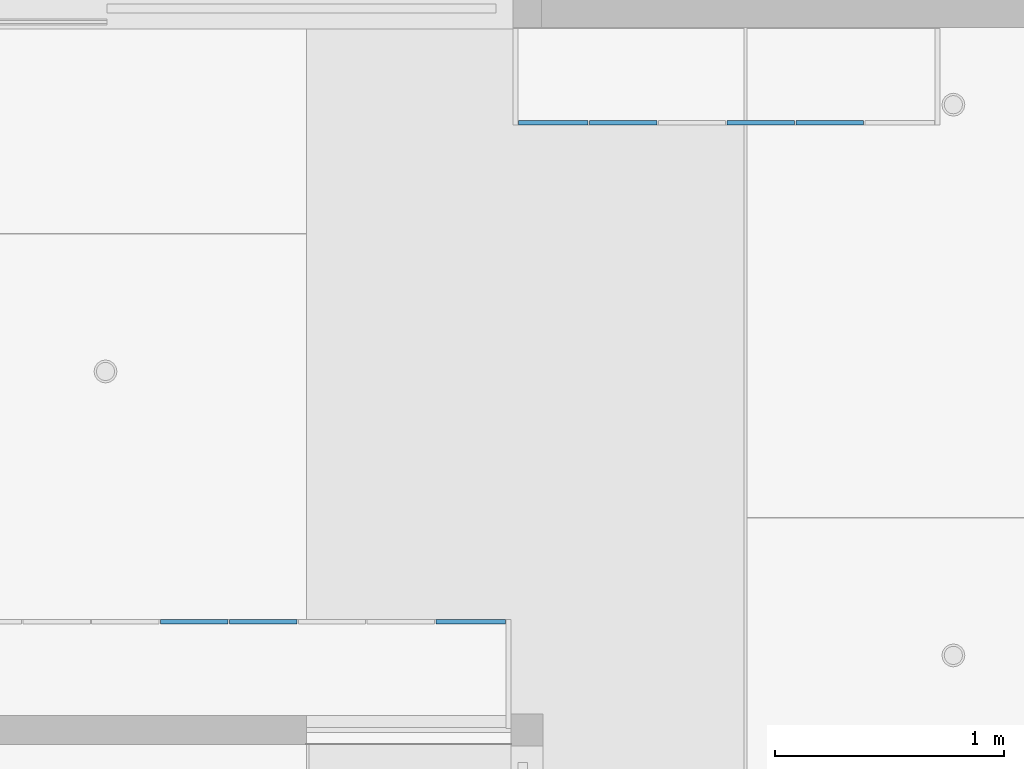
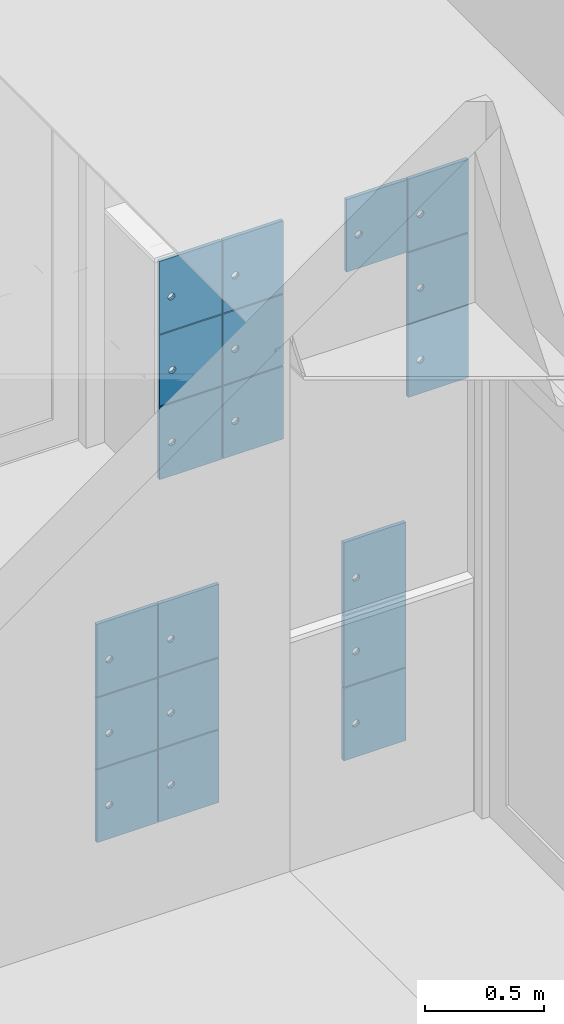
# One storey, part 144 of 347: 19 building element parts, 2 elements without a shape of their own.
"""IFC2X3 building model written with IfcOpenShell, lengths in millimetres."""

from ifc_helpers import new_model, entity, si_unit, converted_unit, derived_unit, money_unit, direction, frame, origin_with_axes, place, context, subcontext, project, spatial, faceted_brep, material, type_object, element, aggregate, save


model = new_model("IFC2X3")

# Units and contexts
model_context = context("Model", 3, precision=0.01, world=origin_with_axes(), true_north=direction((0.0, 1.0)))
plan_context = context("Plan", 3, precision=0.01, world=origin_with_axes(), true_north=direction((0.0, 1.0)))
body_context = subcontext(model_context, "Body", "Model", "MODEL_VIEW")
ifc_project = project(units=[si_unit("LENGTHUNIT", "METRE", prefix="MILLI"), si_unit("AREAUNIT", "SQUARE_METRE"), si_unit("VOLUMEUNIT", "CUBIC_METRE"), converted_unit("PLANEANGLEUNIT", "DEGREE", entity("IfcPlaneAngleMeasure", 0.0174532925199), si_unit("PLANEANGLEUNIT", "RADIAN"), dimensions=[0, 0, 0, 0, 0, 0, 0]), money_unit("EUR"), converted_unit("TIMEUNIT", "Year", entity("IfcTimeMeasure", 31556926.0), si_unit("TIMEUNIT", "SECOND"), dimensions=[0, 0, 1, 0, 0, 0, 0]), si_unit("MASSUNIT", "GRAM", prefix="KILO"), si_unit("THERMODYNAMICTEMPERATUREUNIT", "DEGREE_CELSIUS"), si_unit("LUMINOUSINTENSITYUNIT", "LUMEN"), si_unit("ENERGYUNIT", "JOULE", prefix="MEGA"), derived_unit("THERMALCONDUCTANCEUNIT", [(si_unit("POWERUNIT", "WATT"), 1), (si_unit("LENGTHUNIT", "METRE"), -1), (si_unit("THERMODYNAMICTEMPERATUREUNIT", "KELVIN"), -1)]), derived_unit("SPECIFICHEATCAPACITYUNIT", [(si_unit("ENERGYUNIT", "JOULE"), 1), (si_unit("MASSUNIT", "GRAM", prefix="KILO"), -1), (si_unit("THERMODYNAMICTEMPERATUREUNIT", "KELVIN"), -1)]), derived_unit("MASSDENSITYUNIT", [(si_unit("MASSUNIT", "GRAM", prefix="KILO"), 1), (si_unit("VOLUMEUNIT", "CUBIC_METRE"), -1)])], contexts=[model_context, plan_context])

# Site, building, storey
site_placement = place(None, origin_with_axes())
site = spatial("IfcSite", under=ifc_project, at=site_placement, Name="Site", CompositionType="ELEMENT")
building_placement = place(site_placement, origin_with_axes())
building = spatial("IfcBuilding", under=site, at=building_placement, Name="Naam gebouw", CompositionType="ELEMENT")
storey_placement = place(building_placement, origin_with_axes())
storey = spatial("IfcBuildingStorey", under=building, at=storey_placement, Name="begane grond", CompositionType="ELEMENT", Elevation=0.0)

# Beam, building element parts
beam_type_1 = type_object("IfcBeamType", Name="VI Garderobe 05 2412 x 1122", PredefinedType="BEAM")
beam_1_placement = place(storey_placement, frame((29630.9999977, 36380.5000293, 0.0), z_axis=(0.0, 0.0, 1.0), x_axis=(-1.0, 0.0, 0.0)))
beam_1 = element("IfcBeam", 1, at=beam_1_placement, inside=storey, type_object=beam_type_1, Name="28_Balk-x", ObjectType="BEAM")
ifc_material = material(Name="Hout - Lockers")
building_element_part_1_placement = place(beam_1_placement, origin_with_axes())
building_element_part_1 = element("IfcBuildingElementPart", 2, at=building_element_part_1_placement, material=ifc_material, Name="Hout - Lockers", context=body_context, shape_type="Brep", body=[
    faceted_brep([(-2412.0, 18.0, 1175.0), (-2412.0, 18.0, 802.0), (-2412.0, 0.0, 802.0), (-2412.0, 0.0, 1175.0), (-2109.0, 18.0, 1175.0), (-2109.0, 18.0, 802.0), (-2183.5623059, 18.0, 985.580134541), (-2187.0, 18.0, 975.0), (-2183.5623059, 18.0, 964.419865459), (-2174.5623059, 18.0, 957.880982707), (-2163.4376941, 18.0, 957.880982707), (-2154.4376941, 18.0, 964.419865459), (-2151.0, 18.0, 975.0), (-2154.4376941, 18.0, 985.580134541), (-2163.4376941, 18.0, 992.119017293), (-2174.5623059, 18.0, 992.119017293), (-2109.0, 0.0, 802.0), (-2109.0, 0.0, 1175.0), (-2183.5623059, 0.0, 985.580134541), (-2174.5623059, 0.0, 992.119017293), (-2163.4376941, 0.0, 992.119017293), (-2154.4376941, 0.0, 985.580134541), (-2151.0, 0.0, 975.0), (-2154.4376941, 0.0, 964.419865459), (-2163.4376941, 0.0, 957.880982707), (-2174.5623059, 0.0, 957.880982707), (-2183.5623059, 0.0, 964.419865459), (-2187.0, 0.0, 975.0)], [[[0, 1, 2, 3]], [[0, 4, 5, 1], [6, 7, 8, 9, 10, 11, 12, 13, 14, 15]], [[1, 5, 16, 2]], [[3, 2, 16, 17], [18, 19, 20, 21, 22, 23, 24, 25, 26, 27]], [[4, 0, 3, 17]], [[5, 4, 17, 16]], [[7, 6, 18, 27]], [[8, 7, 27, 26]], [[9, 8, 26, 25]], [[10, 9, 25, 24]], [[11, 10, 24, 23]], [[12, 11, 23, 22]], [[13, 12, 22, 21]], [[14, 13, 21, 20]], [[15, 14, 20, 19]], [[6, 15, 19, 18]]]),
])
building_element_part_2_placement = place(beam_1_placement, origin_with_axes())
building_element_part_2 = element("IfcBuildingElementPart", 3, at=building_element_part_2_placement, material=ifc_material, Name="Hout - Lockers", context=body_context, shape_type="Brep", body=[
    faceted_brep([(-2412.0, 18.0, 796.0), (-2412.0, 18.0, 432.0), (-2412.0, 0.0, 432.0), (-2412.0, 0.0, 796.0), (-2109.0, 18.0, 796.0), (-2109.0, 18.0, 432.0), (-2183.5623059, 18.0, 606.580134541), (-2187.0, 18.0, 596.0), (-2183.5623059, 18.0, 585.419865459), (-2174.5623059, 18.0, 578.880982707), (-2163.4376941, 18.0, 578.880982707), (-2154.4376941, 18.0, 585.419865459), (-2151.0, 18.0, 596.0), (-2154.4376941, 18.0, 606.580134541), (-2163.4376941, 18.0, 613.119017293), (-2174.5623059, 18.0, 613.119017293), (-2109.0, 0.0, 432.0), (-2109.0, 0.0, 796.0), (-2183.5623059, 0.0, 606.580134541), (-2174.5623059, 0.0, 613.119017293), (-2163.4376941, 0.0, 613.119017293), (-2154.4376941, 0.0, 606.580134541), (-2151.0, 0.0, 596.0), (-2154.4376941, 0.0, 585.419865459), (-2163.4376941, 0.0, 578.880982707), (-2174.5623059, 0.0, 578.880982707), (-2183.5623059, 0.0, 585.419865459), (-2187.0, 0.0, 596.0)], [[[0, 1, 2, 3]], [[0, 4, 5, 1], [6, 7, 8, 9, 10, 11, 12, 13, 14, 15]], [[1, 5, 16, 2]], [[3, 2, 16, 17], [18, 19, 20, 21, 22, 23, 24, 25, 26, 27]], [[4, 0, 3, 17]], [[5, 4, 17, 16]], [[7, 6, 18, 27]], [[8, 7, 27, 26]], [[9, 8, 26, 25]], [[10, 9, 25, 24]], [[11, 10, 24, 23]], [[12, 11, 23, 22]], [[13, 12, 22, 21]], [[14, 13, 21, 20]], [[15, 14, 20, 19]], [[6, 15, 19, 18]]]),
])
building_element_part_3_placement = place(beam_1_placement, origin_with_axes())
building_element_part_3 = element("IfcBuildingElementPart", 4, at=building_element_part_3_placement, material=ifc_material, Name="Hout - Lockers", context=body_context, shape_type="Brep", body=[
    faceted_brep([(-2412.0, 18.0, 426.0), (-2412.0, 18.0, 53.0), (-2412.0, 0.0, 53.0), (-2412.0, 0.0, 426.0), (-2109.0, 18.0, 426.0), (-2109.0, 18.0, 53.0), (-2182.1615884, 18.0, 236.58994507), (-2185.5992825, 18.0, 226.009810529), (-2182.1615884, 18.0, 215.429675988), (-2173.1615884, 18.0, 208.890793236), (-2162.0369766, 18.0, 208.890793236), (-2153.0369766, 18.0, 215.429675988), (-2149.5992825, 18.0, 226.009810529), (-2153.0369766, 18.0, 236.58994507), (-2162.0369766, 18.0, 243.128827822), (-2173.1615884, 18.0, 243.128827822), (-2109.0, 0.0, 53.0), (-2109.0, 0.0, 426.0), (-2182.1615884, 0.0, 236.58994507), (-2173.1615884, 0.0, 243.128827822), (-2162.0369766, 0.0, 243.128827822), (-2153.0369766, 0.0, 236.58994507), (-2149.5992825, 0.0, 226.009810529), (-2153.0369766, 0.0, 215.429675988), (-2162.0369766, 0.0, 208.890793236), (-2173.1615884, 0.0, 208.890793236), (-2182.1615884, 0.0, 215.429675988), (-2185.5992825, 0.0, 226.009810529)], [[[0, 1, 2, 3]], [[0, 4, 5, 1], [6, 7, 8, 9, 10, 11, 12, 13, 14, 15]], [[1, 5, 16, 2]], [[3, 2, 16, 17], [18, 19, 20, 21, 22, 23, 24, 25, 26, 27]], [[4, 0, 3, 17]], [[5, 4, 17, 16]], [[7, 6, 18, 27]], [[8, 7, 27, 26]], [[9, 8, 26, 25]], [[10, 9, 25, 24]], [[11, 10, 24, 23]], [[12, 11, 23, 22]], [[13, 12, 22, 21]], [[14, 13, 21, 20]], [[15, 14, 20, 19]], [[6, 15, 19, 18]]]),
])
building_element_part_4_placement = place(beam_1_placement, origin_with_axes())
building_element_part_4 = element("IfcBuildingElementPart", 5, at=building_element_part_4_placement, material=ifc_material, Name="Hout - Lockers", context=body_context, shape_type="Brep", body=[
    faceted_brep([(-1503.0, 18.0, 1175.0), (-1503.0, 18.0, 802.0), (-1503.0, 0.0, 802.0), (-1503.0, 0.0, 1175.0), (-1209.0, 18.0, 1175.0), (-1209.0, 18.0, 802.0), (-1283.5623059, 18.0, 985.580134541), (-1287.0, 18.0, 975.0), (-1283.5623059, 18.0, 964.419865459), (-1274.5623059, 18.0, 957.880982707), (-1263.4376941, 18.0, 957.880982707), (-1254.4376941, 18.0, 964.419865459), (-1251.0, 18.0, 975.0), (-1254.4376941, 18.0, 985.580134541), (-1263.4376941, 18.0, 992.119017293), (-1274.5623059, 18.0, 992.119017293), (-1209.0, 0.0, 802.0), (-1209.0, 0.0, 1175.0), (-1283.5623059, 0.0, 985.580134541), (-1274.5623059, 0.0, 992.119017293), (-1263.4376941, 0.0, 992.119017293), (-1254.4376941, 0.0, 985.580134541), (-1251.0, 0.0, 975.0), (-1254.4376941, 0.0, 964.419865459), (-1263.4376941, 0.0, 957.880982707), (-1274.5623059, 0.0, 957.880982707), (-1283.5623059, 0.0, 964.419865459), (-1287.0, 0.0, 975.0)], [[[0, 1, 2, 3]], [[0, 4, 5, 1], [6, 7, 8, 9, 10, 11, 12, 13, 14, 15]], [[1, 5, 16, 2]], [[3, 2, 16, 17], [18, 19, 20, 21, 22, 23, 24, 25, 26, 27]], [[4, 0, 3, 17]], [[5, 4, 17, 16]], [[7, 6, 18, 27]], [[8, 7, 27, 26]], [[9, 8, 26, 25]], [[10, 9, 25, 24]], [[11, 10, 24, 23]], [[12, 11, 23, 22]], [[13, 12, 22, 21]], [[14, 13, 21, 20]], [[15, 14, 20, 19]], [[6, 15, 19, 18]]]),
])
building_element_part_5_placement = place(beam_1_placement, origin_with_axes())
building_element_part_5 = element("IfcBuildingElementPart", 6, at=building_element_part_5_placement, material=ifc_material, Name="Hout - Lockers", context=body_context, shape_type="Brep", body=[
    faceted_brep([(-1503.0, 18.0, 796.0), (-1503.0, 18.0, 432.0), (-1503.0, 0.0, 432.0), (-1503.0, 0.0, 796.0), (-1209.0, 18.0, 796.0), (-1209.0, 18.0, 432.0), (-1283.5623059, 18.0, 606.580134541), (-1287.0, 18.0, 596.0), (-1283.5623059, 18.0, 585.419865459), (-1274.5623059, 18.0, 578.880982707), (-1263.4376941, 18.0, 578.880982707), (-1254.4376941, 18.0, 585.419865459), (-1251.0, 18.0, 596.0), (-1254.4376941, 18.0, 606.580134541), (-1263.4376941, 18.0, 613.119017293), (-1274.5623059, 18.0, 613.119017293), (-1209.0, 0.0, 432.0), (-1209.0, 0.0, 796.0), (-1283.5623059, 0.0, 606.580134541), (-1274.5623059, 0.0, 613.119017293), (-1263.4376941, 0.0, 613.119017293), (-1254.4376941, 0.0, 606.580134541), (-1251.0, 0.0, 596.0), (-1254.4376941, 0.0, 585.419865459), (-1263.4376941, 0.0, 578.880982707), (-1274.5623059, 0.0, 578.880982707), (-1283.5623059, 0.0, 585.419865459), (-1287.0, 0.0, 596.0)], [[[0, 1, 2, 3]], [[0, 4, 5, 1], [6, 7, 8, 9, 10, 11, 12, 13, 14, 15]], [[1, 5, 16, 2]], [[3, 2, 16, 17], [18, 19, 20, 21, 22, 23, 24, 25, 26, 27]], [[4, 0, 3, 17]], [[5, 4, 17, 16]], [[7, 6, 18, 27]], [[8, 7, 27, 26]], [[9, 8, 26, 25]], [[10, 9, 25, 24]], [[11, 10, 24, 23]], [[12, 11, 23, 22]], [[13, 12, 22, 21]], [[14, 13, 21, 20]], [[15, 14, 20, 19]], [[6, 15, 19, 18]]]),
])
building_element_part_6_placement = place(beam_1_placement, origin_with_axes())
building_element_part_6 = element("IfcBuildingElementPart", 7, at=building_element_part_6_placement, material=ifc_material, Name="Hout - Lockers", context=body_context, shape_type="Brep", body=[
    faceted_brep([(-1503.0, 18.0, 426.0), (-1503.0, 18.0, 53.0), (-1503.0, 0.0, 53.0), (-1503.0, 0.0, 426.0), (-1209.0, 18.0, 426.0), (-1209.0, 18.0, 53.0), (-1283.5623059, 18.0, 236.580134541), (-1287.0, 18.0, 226.0), (-1283.5623059, 18.0, 215.419865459), (-1274.5623059, 18.0, 208.880982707), (-1263.4376941, 18.0, 208.880982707), (-1254.4376941, 18.0, 215.419865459), (-1251.0, 18.0, 226.0), (-1254.4376941, 18.0, 236.580134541), (-1263.4376941, 18.0, 243.119017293), (-1274.5623059, 18.0, 243.119017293), (-1209.0, 0.0, 53.0), (-1209.0, 0.0, 426.0), (-1283.5623059, 0.0, 236.580134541), (-1274.5623059, 0.0, 243.119017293), (-1263.4376941, 0.0, 243.119017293), (-1254.4376941, 0.0, 236.580134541), (-1251.0, 0.0, 226.0), (-1254.4376941, 0.0, 215.419865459), (-1263.4376941, 0.0, 208.880982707), (-1274.5623059, 0.0, 208.880982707), (-1283.5623059, 0.0, 215.419865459), (-1287.0, 0.0, 226.0)], [[[0, 1, 2, 3]], [[0, 4, 5, 1], [6, 7, 8, 9, 10, 11, 12, 13, 14, 15]], [[1, 5, 16, 2]], [[3, 2, 16, 17], [18, 19, 20, 21, 22, 23, 24, 25, 26, 27]], [[4, 0, 3, 17]], [[5, 4, 17, 16]], [[7, 6, 18, 27]], [[8, 7, 27, 26]], [[9, 8, 26, 25]], [[10, 9, 25, 24]], [[11, 10, 24, 23]], [[12, 11, 23, 22]], [[13, 12, 22, 21]], [[14, 13, 21, 20]], [[15, 14, 20, 19]], [[6, 15, 19, 18]]]),
])
building_element_part_7_placement = place(beam_1_placement, origin_with_axes())
building_element_part_7 = element("IfcBuildingElementPart", 8, at=building_element_part_7_placement, material=ifc_material, Name="Hout - Lockers", context=body_context, shape_type="Brep", body=[
    faceted_brep([(-1203.0, 18.0, 1175.0), (-1203.0, 18.0, 802.0), (-1203.0, 0.0, 802.0), (-1203.0, 0.0, 1175.0), (-909.0, 18.0, 1175.0), (-909.0, 18.0, 802.0), (-983.562305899, 18.0, 985.580134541), (-987.0, 18.0, 975.0), (-983.562305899, 18.0, 964.419865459), (-974.562305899, 18.0, 957.880982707), (-963.437694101, 18.0, 957.880982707), (-954.437694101, 18.0, 964.419865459), (-951.0, 18.0, 975.0), (-954.437694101, 18.0, 985.580134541), (-963.437694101, 18.0, 992.119017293), (-974.562305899, 18.0, 992.119017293), (-909.0, 0.0, 802.0), (-909.0, 0.0, 1175.0), (-983.562305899, 0.0, 985.580134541), (-974.562305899, 0.0, 992.119017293), (-963.437694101, 0.0, 992.119017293), (-954.437694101, 0.0, 985.580134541), (-951.0, 0.0, 975.0), (-954.437694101, 0.0, 964.419865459), (-963.437694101, 0.0, 957.880982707), (-974.562305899, 0.0, 957.880982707), (-983.562305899, 0.0, 964.419865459), (-987.0, 0.0, 975.0)], [[[0, 1, 2, 3]], [[0, 4, 5, 1], [6, 7, 8, 9, 10, 11, 12, 13, 14, 15]], [[1, 5, 16, 2]], [[3, 2, 16, 17], [18, 19, 20, 21, 22, 23, 24, 25, 26, 27]], [[4, 0, 3, 17]], [[5, 4, 17, 16]], [[7, 6, 18, 27]], [[8, 7, 27, 26]], [[9, 8, 26, 25]], [[10, 9, 25, 24]], [[11, 10, 24, 23]], [[12, 11, 23, 22]], [[13, 12, 22, 21]], [[14, 13, 21, 20]], [[15, 14, 20, 19]], [[6, 15, 19, 18]]]),
])
building_element_part_8_placement = place(beam_1_placement, origin_with_axes())
building_element_part_8 = element("IfcBuildingElementPart", 9, at=building_element_part_8_placement, material=ifc_material, Name="Hout - Lockers", context=body_context, shape_type="Brep", body=[
    faceted_brep([(-1203.0, 18.0, 796.0), (-1203.0, 18.0, 432.0), (-1203.0, 0.0, 432.0), (-1203.0, 0.0, 796.0), (-909.0, 18.0, 796.0), (-909.0, 18.0, 432.0), (-983.562305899, 18.0, 606.580134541), (-987.0, 18.0, 596.0), (-983.562305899, 18.0, 585.419865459), (-974.562305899, 18.0, 578.880982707), (-963.437694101, 18.0, 578.880982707), (-954.437694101, 18.0, 585.419865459), (-951.0, 18.0, 596.0), (-954.437694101, 18.0, 606.580134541), (-963.437694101, 18.0, 613.119017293), (-974.562305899, 18.0, 613.119017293), (-909.0, 0.0, 432.0), (-909.0, 0.0, 796.0), (-983.562305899, 0.0, 606.580134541), (-974.562305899, 0.0, 613.119017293), (-963.437694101, 0.0, 613.119017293), (-954.437694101, 0.0, 606.580134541), (-951.0, 0.0, 596.0), (-954.437694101, 0.0, 585.419865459), (-963.437694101, 0.0, 578.880982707), (-974.562305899, 0.0, 578.880982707), (-983.562305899, 0.0, 585.419865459), (-987.0, 0.0, 596.0)], [[[0, 1, 2, 3]], [[0, 4, 5, 1], [6, 7, 8, 9, 10, 11, 12, 13, 14, 15]], [[1, 5, 16, 2]], [[3, 2, 16, 17], [18, 19, 20, 21, 22, 23, 24, 25, 26, 27]], [[4, 0, 3, 17]], [[5, 4, 17, 16]], [[7, 6, 18, 27]], [[8, 7, 27, 26]], [[9, 8, 26, 25]], [[10, 9, 25, 24]], [[11, 10, 24, 23]], [[12, 11, 23, 22]], [[13, 12, 22, 21]], [[14, 13, 21, 20]], [[15, 14, 20, 19]], [[6, 15, 19, 18]]]),
])
building_element_part_9_placement = place(beam_1_placement, origin_with_axes())
building_element_part_9 = element("IfcBuildingElementPart", 10, at=building_element_part_9_placement, material=ifc_material, Name="Hout - Lockers", context=body_context, shape_type="Brep", body=[
    faceted_brep([(-1203.0, 18.0, 426.0), (-1203.0, 18.0, 53.0), (-1203.0, 0.0, 53.0), (-1203.0, 0.0, 426.0), (-909.0, 18.0, 426.0), (-909.0, 18.0, 53.0), (-983.562305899, 18.0, 236.580134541), (-987.0, 18.0, 226.0), (-983.562305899, 18.0, 215.419865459), (-974.562305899, 18.0, 208.880982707), (-963.437694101, 18.0, 208.880982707), (-954.437694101, 18.0, 215.419865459), (-951.0, 18.0, 226.0), (-954.437694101, 18.0, 236.580134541), (-963.437694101, 18.0, 243.119017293), (-974.562305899, 18.0, 243.119017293), (-909.0, 0.0, 53.0), (-909.0, 0.0, 426.0), (-983.562305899, 0.0, 236.580134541), (-974.562305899, 0.0, 243.119017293), (-963.437694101, 0.0, 243.119017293), (-954.437694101, 0.0, 236.580134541), (-951.0, 0.0, 226.0), (-954.437694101, 0.0, 215.419865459), (-963.437694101, 0.0, 208.880982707), (-974.562305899, 0.0, 208.880982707), (-983.562305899, 0.0, 215.419865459), (-987.0, 0.0, 226.0)], [[[0, 1, 2, 3]], [[0, 4, 5, 1], [6, 7, 8, 9, 10, 11, 12, 13, 14, 15]], [[1, 5, 16, 2]], [[3, 2, 16, 17], [18, 19, 20, 21, 22, 23, 24, 25, 26, 27]], [[4, 0, 3, 17]], [[5, 4, 17, 16]], [[7, 6, 18, 27]], [[8, 7, 27, 26]], [[9, 8, 26, 25]], [[10, 9, 25, 24]], [[11, 10, 24, 23]], [[12, 11, 23, 22]], [[13, 12, 22, 21]], [[14, 13, 21, 20]], [[15, 14, 20, 19]], [[6, 15, 19, 18]]]),
])
aggregate(beam_1, [building_element_part_1, building_element_part_2, building_element_part_3, building_element_part_4, building_element_part_5, building_element_part_6, building_element_part_7, building_element_part_8, building_element_part_9])

beam_type_2 = type_object("IfcBeamType", Name="VI Garderobe 06 1812 x 1122", PredefinedType="BEAM")
beam_2_placement = place(storey_placement, frame((32075.0, 38537.5, 0.0), z_axis=(0.0, 0.0, 1.0), x_axis=(1.0, 0.0, 0.0)))
beam_2 = element("IfcBeam", 11, at=beam_2_placement, inside=storey, type_object=beam_type_2, Name="28_Balk-x", ObjectType="BEAM")
building_element_part_10_placement = place(beam_2_placement, origin_with_axes())
building_element_part_10 = element("IfcBuildingElementPart", 12, at=building_element_part_10_placement, material=ifc_material, Name="Hout - Lockers", context=body_context, shape_type="Brep", body=[
    faceted_brep([(1234.0, 18.0, 1175.0), (1234.0, 18.0, 802.0), (1234.0, 0.0, 802.0), (1234.0, 0.0, 1175.0), (1528.0, 18.0, 1175.0), (1528.0, 18.0, 802.0), (1312.0, 18.0, 975.0), (1308.5623059, 18.0, 985.580134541), (1299.5623059, 18.0, 992.119017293), (1288.4376941, 18.0, 992.119017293), (1279.4376941, 18.0, 985.580134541), (1276.0, 18.0, 975.0), (1279.4376941, 18.0, 964.419865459), (1288.4376941, 18.0, 957.880982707), (1299.5623059, 18.0, 957.880982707), (1308.5623059, 18.0, 964.419865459), (1528.0, 0.0, 802.0), (1528.0, 0.0, 1175.0), (1312.0, 0.0, 975.0), (1308.5623059, 0.0, 964.419865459), (1299.5623059, 0.0, 957.880982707), (1288.4376941, 0.0, 957.880982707), (1279.4376941, 0.0, 964.419865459), (1276.0, 0.0, 975.0), (1279.4376941, 0.0, 985.580134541), (1288.4376941, 0.0, 992.119017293), (1299.5623059, 0.0, 992.119017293), (1308.5623059, 0.0, 985.580134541)], [[[0, 1, 2, 3]], [[0, 4, 5, 1], [6, 7, 8, 9, 10, 11, 12, 13, 14, 15]], [[1, 5, 16, 2]], [[3, 2, 16, 17], [18, 19, 20, 21, 22, 23, 24, 25, 26, 27]], [[4, 0, 3, 17]], [[5, 4, 17, 16]], [[7, 6, 18, 27]], [[8, 7, 27, 26]], [[9, 8, 26, 25]], [[10, 9, 25, 24]], [[11, 10, 24, 23]], [[12, 11, 23, 22]], [[13, 12, 22, 21]], [[14, 13, 21, 20]], [[15, 14, 20, 19]], [[6, 15, 19, 18]]]),
])
building_element_part_11_placement = place(beam_2_placement, origin_with_axes())
building_element_part_11 = element("IfcBuildingElementPart", 13, at=building_element_part_11_placement, material=ifc_material, Name="Hout - Lockers", context=body_context, shape_type="Brep", body=[
    faceted_brep([(1234.0, 18.0, 796.0), (1234.0, 18.0, 432.0), (1234.0, 0.0, 432.0), (1234.0, 0.0, 796.0), (1528.0, 18.0, 796.0), (1528.0, 18.0, 432.0), (1312.0, 18.0, 596.0), (1308.5623059, 18.0, 606.580134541), (1299.5623059, 18.0, 613.119017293), (1288.4376941, 18.0, 613.119017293), (1279.4376941, 18.0, 606.580134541), (1276.0, 18.0, 596.0), (1279.4376941, 18.0, 585.419865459), (1288.4376941, 18.0, 578.880982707), (1299.5623059, 18.0, 578.880982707), (1308.5623059, 18.0, 585.419865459), (1528.0, 0.0, 432.0), (1528.0, 0.0, 796.0), (1312.0, 0.0, 596.0), (1308.5623059, 0.0, 585.419865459), (1299.5623059, 0.0, 578.880982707), (1288.4376941, 0.0, 578.880982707), (1279.4376941, 0.0, 585.419865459), (1276.0, 0.0, 596.0), (1279.4376941, 0.0, 606.580134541), (1288.4376941, 0.0, 613.119017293), (1299.5623059, 0.0, 613.119017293), (1308.5623059, 0.0, 606.580134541)], [[[0, 1, 2, 3]], [[0, 4, 5, 1], [6, 7, 8, 9, 10, 11, 12, 13, 14, 15]], [[1, 5, 16, 2]], [[3, 2, 16, 17], [18, 19, 20, 21, 22, 23, 24, 25, 26, 27]], [[4, 0, 3, 17]], [[5, 4, 17, 16]], [[7, 6, 18, 27]], [[8, 7, 27, 26]], [[9, 8, 26, 25]], [[10, 9, 25, 24]], [[11, 10, 24, 23]], [[12, 11, 23, 22]], [[13, 12, 22, 21]], [[14, 13, 21, 20]], [[15, 14, 20, 19]], [[6, 15, 19, 18]]]),
])
building_element_part_12_placement = place(beam_2_placement, origin_with_axes())
building_element_part_12 = element("IfcBuildingElementPart", 14, at=building_element_part_12_placement, material=ifc_material, Name="Hout - Lockers", context=body_context, shape_type="Brep", body=[
    faceted_brep([(1234.0, 18.0, 426.0), (1234.0, 18.0, 53.0), (1234.0, 0.0, 53.0), (1234.0, 0.0, 426.0), (1528.0, 18.0, 426.0), (1528.0, 18.0, 53.0), (1312.0, 18.0, 226.0), (1308.5623059, 18.0, 236.580134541), (1299.5623059, 18.0, 243.119017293), (1288.4376941, 18.0, 243.119017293), (1279.4376941, 18.0, 236.580134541), (1276.0, 18.0, 226.0), (1279.4376941, 18.0, 215.419865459), (1288.4376941, 18.0, 208.880982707), (1299.5623059, 18.0, 208.880982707), (1308.5623059, 18.0, 215.419865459), (1528.0, 0.0, 53.0), (1528.0, 0.0, 426.0), (1312.0, 0.0, 226.0), (1308.5623059, 0.0, 215.419865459), (1299.5623059, 0.0, 208.880982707), (1288.4376941, 0.0, 208.880982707), (1279.4376941, 0.0, 215.419865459), (1276.0, 0.0, 226.0), (1279.4376941, 0.0, 236.580134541), (1288.4376941, 0.0, 243.119017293), (1299.5623059, 0.0, 243.119017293), (1308.5623059, 0.0, 236.580134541)], [[[0, 1, 2, 3]], [[0, 4, 5, 1], [6, 7, 8, 9, 10, 11, 12, 13, 14, 15]], [[1, 5, 16, 2]], [[3, 2, 16, 17], [18, 19, 20, 21, 22, 23, 24, 25, 26, 27]], [[4, 0, 3, 17]], [[5, 4, 17, 16]], [[7, 6, 18, 27]], [[8, 7, 27, 26]], [[9, 8, 26, 25]], [[10, 9, 25, 24]], [[11, 10, 24, 23]], [[12, 11, 23, 22]], [[13, 12, 22, 21]], [[14, 13, 21, 20]], [[15, 14, 20, 19]], [[6, 15, 19, 18]]]),
])
building_element_part_13_placement = place(beam_2_placement, origin_with_axes())
building_element_part_13 = element("IfcBuildingElementPart", 15, at=building_element_part_13_placement, material=ifc_material, Name="Hout - Lockers", context=body_context, shape_type="Brep", body=[
    faceted_brep([(25.0, 18.0, 1175.0), (25.0, 18.0, 802.0), (25.0, 0.0, 802.0), (25.0, 0.0, 1175.0), (328.0, 18.0, 1175.0), (328.0, 18.0, 802.0), (101.202576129, 18.0, 975.016154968), (97.7648820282, 18.0, 985.596289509), (88.7648820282, 18.0, 992.135172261), (77.6402702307, 18.0, 992.135172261), (68.6402702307, 18.0, 985.596289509), (65.2025761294, 18.0, 975.016154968), (68.6402702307, 18.0, 964.436020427), (77.6402702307, 18.0, 957.897137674), (88.7648820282, 18.0, 957.897137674), (97.7648820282, 18.0, 964.436020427), (328.0, 0.0, 802.0), (328.0, 0.0, 1175.0), (101.202576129, 0.0, 975.016154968), (97.7648820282, 0.0, 964.436020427), (88.7648820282, 0.0, 957.897137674), (77.6402702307, 0.0, 957.897137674), (68.6402702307, 0.0, 964.436020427), (65.2025761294, 0.0, 975.016154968), (68.6402702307, 0.0, 985.596289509), (77.6402702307, 0.0, 992.135172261), (88.7648820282, 0.0, 992.135172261), (97.7648820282, 0.0, 985.596289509)], [[[0, 1, 2, 3]], [[0, 4, 5, 1], [6, 7, 8, 9, 10, 11, 12, 13, 14, 15]], [[1, 5, 16, 2]], [[3, 2, 16, 17], [18, 19, 20, 21, 22, 23, 24, 25, 26, 27]], [[4, 0, 3, 17]], [[5, 4, 17, 16]], [[7, 6, 18, 27]], [[8, 7, 27, 26]], [[9, 8, 26, 25]], [[10, 9, 25, 24]], [[11, 10, 24, 23]], [[12, 11, 23, 22]], [[13, 12, 22, 21]], [[14, 13, 21, 20]], [[15, 14, 20, 19]], [[6, 15, 19, 18]]]),
])
building_element_part_14_placement = place(beam_2_placement, origin_with_axes())
building_element_part_14 = element("IfcBuildingElementPart", 16, at=building_element_part_14_placement, material=ifc_material, Name="Hout - Lockers", context=body_context, shape_type="Brep", body=[
    faceted_brep([(25.0, 18.0, 796.0), (25.0, 18.0, 432.0), (25.0, 0.0, 432.0), (25.0, 0.0, 796.0), (328.0, 18.0, 796.0), (328.0, 18.0, 432.0), (69.5601698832, 18.0, 596.032777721), (72.9978639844, 18.0, 585.45264318), (81.9978639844, 18.0, 578.913760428), (93.1224757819, 18.0, 578.913760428), (102.122475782, 18.0, 585.45264318), (105.560169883, 18.0, 596.032777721), (102.122475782, 18.0, 606.612912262), (93.1224757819, 18.0, 613.151795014), (81.9978639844, 18.0, 613.151795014), (72.9978639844, 18.0, 606.612912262), (328.0, 0.0, 432.0), (328.0, 0.0, 796.0), (69.5601698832, 0.0, 596.032777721), (72.9978639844, 0.0, 606.612912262), (81.9978639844, 0.0, 613.151795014), (93.1224757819, 0.0, 613.151795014), (102.122475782, 0.0, 606.612912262), (105.560169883, 0.0, 596.032777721), (102.122475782, 0.0, 585.45264318), (93.1224757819, 0.0, 578.913760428), (81.9978639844, 0.0, 578.913760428), (72.9978639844, 0.0, 585.45264318)], [[[0, 1, 2, 3]], [[0, 4, 5, 1], [6, 7, 8, 9, 10, 11, 12, 13, 14, 15]], [[1, 5, 16, 2]], [[3, 2, 16, 17], [18, 19, 20, 21, 22, 23, 24, 25, 26, 27]], [[4, 0, 3, 17]], [[5, 4, 17, 16]], [[7, 6, 18, 27]], [[8, 7, 27, 26]], [[9, 8, 26, 25]], [[10, 9, 25, 24]], [[11, 10, 24, 23]], [[12, 11, 23, 22]], [[13, 12, 22, 21]], [[14, 13, 21, 20]], [[15, 14, 20, 19]], [[6, 15, 19, 18]]]),
])
building_element_part_15_placement = place(beam_2_placement, origin_with_axes())
building_element_part_15 = element("IfcBuildingElementPart", 17, at=building_element_part_15_placement, material=ifc_material, Name="Hout - Lockers", context=body_context, shape_type="Brep", body=[
    faceted_brep([(25.0, 18.0, 426.0), (25.0, 18.0, 53.0), (25.0, 0.0, 53.0), (25.0, 0.0, 426.0), (328.0, 18.0, 426.0), (328.0, 18.0, 53.0), (103.0, 18.0, 226.0), (99.5623058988, 18.0, 236.580134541), (90.5623058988, 18.0, 243.119017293), (79.4376941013, 18.0, 243.119017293), (70.4376941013, 18.0, 236.580134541), (67.0, 18.0, 226.0), (70.4376941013, 18.0, 215.419865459), (79.4376941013, 18.0, 208.880982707), (90.5623058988, 18.0, 208.880982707), (99.5623058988, 18.0, 215.419865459), (328.0, 0.0, 53.0), (328.0, 0.0, 426.0), (103.0, 0.0, 226.0), (99.5623058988, 0.0, 215.419865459), (90.5623058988, 0.0, 208.880982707), (79.4376941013, 0.0, 208.880982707), (70.4376941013, 0.0, 215.419865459), (67.0, 0.0, 226.0), (70.4376941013, 0.0, 236.580134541), (79.4376941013, 0.0, 243.119017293), (90.5623058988, 0.0, 243.119017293), (99.5623058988, 0.0, 236.580134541)], [[[0, 1, 2, 3]], [[0, 4, 5, 1], [6, 7, 8, 9, 10, 11, 12, 13, 14, 15]], [[1, 5, 16, 2]], [[3, 2, 16, 17], [18, 19, 20, 21, 22, 23, 24, 25, 26, 27]], [[4, 0, 3, 17]], [[5, 4, 17, 16]], [[7, 6, 18, 27]], [[8, 7, 27, 26]], [[9, 8, 26, 25]], [[10, 9, 25, 24]], [[11, 10, 24, 23]], [[12, 11, 23, 22]], [[13, 12, 22, 21]], [[14, 13, 21, 20]], [[15, 14, 20, 19]], [[6, 15, 19, 18]]]),
])
building_element_part_16_placement = place(beam_2_placement, origin_with_axes())
building_element_part_16 = element("IfcBuildingElementPart", 18, at=building_element_part_16_placement, material=ifc_material, Name="Hout - Lockers", context=body_context, shape_type="Brep", body=[
    faceted_brep([(934.0, 18.0, 1175.0), (934.0, 18.0, 802.0), (934.0, 0.0, 802.0), (934.0, 0.0, 1175.0), (1228.0, 18.0, 1175.0), (1228.0, 18.0, 802.0), (1012.0, 18.0, 975.0), (1008.5623059, 18.0, 985.580134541), (999.562305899, 18.0, 992.119017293), (988.437694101, 18.0, 992.119017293), (979.437694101, 18.0, 985.580134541), (976.0, 18.0, 975.0), (979.437694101, 18.0, 964.419865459), (988.437694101, 18.0, 957.880982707), (999.562305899, 18.0, 957.880982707), (1008.5623059, 18.0, 964.419865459), (1228.0, 0.0, 802.0), (1228.0, 0.0, 1175.0), (1012.0, 0.0, 975.0), (1008.5623059, 0.0, 964.419865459), (999.562305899, 0.0, 957.880982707), (988.437694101, 0.0, 957.880982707), (979.437694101, 0.0, 964.419865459), (976.0, 0.0, 975.0), (979.437694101, 0.0, 985.580134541), (988.437694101, 0.0, 992.119017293), (999.562305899, 0.0, 992.119017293), (1008.5623059, 0.0, 985.580134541)], [[[0, 1, 2, 3]], [[0, 4, 5, 1], [6, 7, 8, 9, 10, 11, 12, 13, 14, 15]], [[1, 5, 16, 2]], [[3, 2, 16, 17], [18, 19, 20, 21, 22, 23, 24, 25, 26, 27]], [[4, 0, 3, 17]], [[5, 4, 17, 16]], [[7, 6, 18, 27]], [[8, 7, 27, 26]], [[9, 8, 26, 25]], [[10, 9, 25, 24]], [[11, 10, 24, 23]], [[12, 11, 23, 22]], [[13, 12, 22, 21]], [[14, 13, 21, 20]], [[15, 14, 20, 19]], [[6, 15, 19, 18]]]),
])
building_element_part_17_placement = place(beam_2_placement, origin_with_axes())
building_element_part_17 = element("IfcBuildingElementPart", 19, at=building_element_part_17_placement, material=ifc_material, Name="Hout - Lockers", context=body_context, shape_type="Brep", body=[
    faceted_brep([(334.0, 18.0, 1175.0), (334.0, 18.0, 802.0), (334.0, 0.0, 802.0), (334.0, 0.0, 1175.0), (628.0, 18.0, 1175.0), (628.0, 18.0, 802.0), (412.0, 18.0, 975.0), (408.562305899, 18.0, 985.580134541), (399.562305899, 18.0, 992.119017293), (388.437694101, 18.0, 992.119017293), (379.437694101, 18.0, 985.580134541), (376.0, 18.0, 975.0), (379.437694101, 18.0, 964.419865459), (388.437694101, 18.0, 957.880982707), (399.562305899, 18.0, 957.880982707), (408.562305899, 18.0, 964.419865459), (628.0, 0.0, 802.0), (628.0, 0.0, 1175.0), (412.0, 0.0, 975.0), (408.562305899, 0.0, 964.419865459), (399.562305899, 0.0, 957.880982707), (388.437694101, 0.0, 957.880982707), (379.437694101, 0.0, 964.419865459), (376.0, 0.0, 975.0), (379.437694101, 0.0, 985.580134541), (388.437694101, 0.0, 992.119017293), (399.562305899, 0.0, 992.119017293), (408.562305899, 0.0, 985.580134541)], [[[0, 1, 2, 3]], [[0, 4, 5, 1], [6, 7, 8, 9, 10, 11, 12, 13, 14, 15]], [[1, 5, 16, 2]], [[3, 2, 16, 17], [18, 19, 20, 21, 22, 23, 24, 25, 26, 27]], [[4, 0, 3, 17]], [[5, 4, 17, 16]], [[7, 6, 18, 27]], [[8, 7, 27, 26]], [[9, 8, 26, 25]], [[10, 9, 25, 24]], [[11, 10, 24, 23]], [[12, 11, 23, 22]], [[13, 12, 22, 21]], [[14, 13, 21, 20]], [[15, 14, 20, 19]], [[6, 15, 19, 18]]]),
])
building_element_part_18_placement = place(beam_2_placement, origin_with_axes())
building_element_part_18 = element("IfcBuildingElementPart", 20, at=building_element_part_18_placement, material=ifc_material, Name="Hout - Lockers", context=body_context, shape_type="Brep", body=[
    faceted_brep([(334.0, 18.0, 796.0), (334.0, 18.0, 432.0), (334.0, 0.0, 432.0), (334.0, 0.0, 796.0), (628.0, 18.0, 796.0), (628.0, 18.0, 432.0), (412.0, 18.0, 596.0), (408.562305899, 18.0, 606.580134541), (399.562305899, 18.0, 613.119017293), (388.437694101, 18.0, 613.119017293), (379.437694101, 18.0, 606.580134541), (376.0, 18.0, 596.0), (379.437694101, 18.0, 585.419865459), (388.437694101, 18.0, 578.880982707), (399.562305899, 18.0, 578.880982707), (408.562305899, 18.0, 585.419865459), (628.0, 0.0, 432.0), (628.0, 0.0, 796.0), (412.0, 0.0, 596.0), (408.562305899, 0.0, 585.419865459), (399.562305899, 0.0, 578.880982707), (388.437694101, 0.0, 578.880982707), (379.437694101, 0.0, 585.419865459), (376.0, 0.0, 596.0), (379.437694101, 0.0, 606.580134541), (388.437694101, 0.0, 613.119017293), (399.562305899, 0.0, 613.119017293), (408.562305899, 0.0, 606.580134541)], [[[0, 1, 2, 3]], [[0, 4, 5, 1], [6, 7, 8, 9, 10, 11, 12, 13, 14, 15]], [[1, 5, 16, 2]], [[3, 2, 16, 17], [18, 19, 20, 21, 22, 23, 24, 25, 26, 27]], [[4, 0, 3, 17]], [[5, 4, 17, 16]], [[7, 6, 18, 27]], [[8, 7, 27, 26]], [[9, 8, 26, 25]], [[10, 9, 25, 24]], [[11, 10, 24, 23]], [[12, 11, 23, 22]], [[13, 12, 22, 21]], [[14, 13, 21, 20]], [[15, 14, 20, 19]], [[6, 15, 19, 18]]]),
])
building_element_part_19_placement = place(beam_2_placement, origin_with_axes())
building_element_part_19 = element("IfcBuildingElementPart", 21, at=building_element_part_19_placement, material=ifc_material, Name="Hout - Lockers", context=body_context, shape_type="Brep", body=[
    faceted_brep([(334.0, 18.0, 426.0), (334.0, 18.0, 53.0), (334.0, 0.0, 53.0), (334.0, 0.0, 426.0), (628.0, 18.0, 426.0), (628.0, 18.0, 53.0), (412.0, 18.0, 226.0), (408.562305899, 18.0, 236.580134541), (399.562305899, 18.0, 243.119017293), (388.437694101, 18.0, 243.119017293), (379.437694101, 18.0, 236.580134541), (376.0, 18.0, 226.0), (379.437694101, 18.0, 215.419865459), (388.437694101, 18.0, 208.880982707), (399.562305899, 18.0, 208.880982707), (408.562305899, 18.0, 215.419865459), (628.0, 0.0, 53.0), (628.0, 0.0, 426.0), (412.0, 0.0, 226.0), (408.562305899, 0.0, 215.419865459), (399.562305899, 0.0, 208.880982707), (388.437694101, 0.0, 208.880982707), (379.437694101, 0.0, 215.419865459), (376.0, 0.0, 226.0), (379.437694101, 0.0, 236.580134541), (388.437694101, 0.0, 243.119017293), (399.562305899, 0.0, 243.119017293), (408.562305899, 0.0, 236.580134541)], [[[0, 1, 2, 3]], [[0, 4, 5, 1], [6, 7, 8, 9, 10, 11, 12, 13, 14, 15]], [[1, 5, 16, 2]], [[3, 2, 16, 17], [18, 19, 20, 21, 22, 23, 24, 25, 26, 27]], [[4, 0, 3, 17]], [[5, 4, 17, 16]], [[7, 6, 18, 27]], [[8, 7, 27, 26]], [[9, 8, 26, 25]], [[10, 9, 25, 24]], [[11, 10, 24, 23]], [[12, 11, 23, 22]], [[13, 12, 22, 21]], [[14, 13, 21, 20]], [[15, 14, 20, 19]], [[6, 15, 19, 18]]]),
])
aggregate(beam_2, [building_element_part_10, building_element_part_11, building_element_part_12, building_element_part_13, building_element_part_14, building_element_part_15, building_element_part_16, building_element_part_17, building_element_part_18, building_element_part_19])

save(model, "model.ifc")
